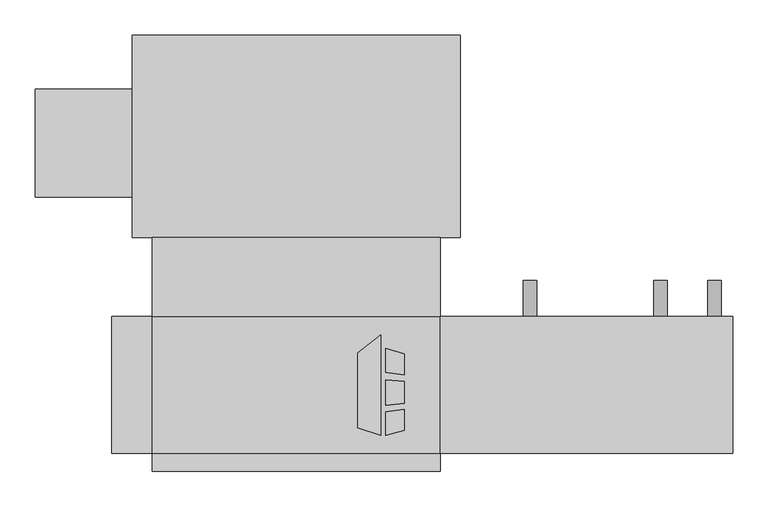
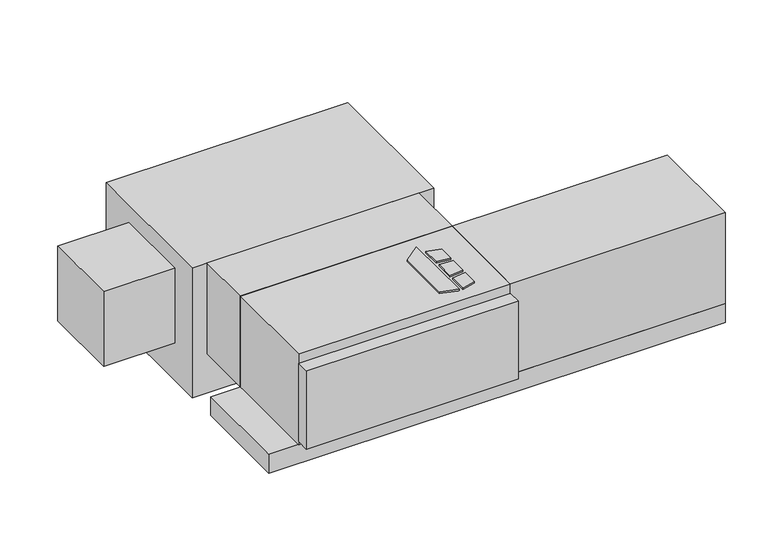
"""IFC4 building model written with IfcOpenShell, lengths in millimetres: proxy geometry, Concealed_Horizontal_Fan_Coil_Unit_With_Plenum_-_CPF_-_IEC_-_2-Pipe_RH : Size 02 - 115v/60Hz/1Ph - 4/1 Coil."""

from ifc_helpers import new_model, si_unit, point, frame, frame_2d, origin, origin_with_axes, place, context, project, spatial, polyline, circle_curve, trimmed, segment, composite_curve, outline, extrude, source, transform, mapped, element, save


def mechanical_equipment_11e3d364(model_context):
    return source(origin(), model_context, "Body", "SweptSolid", [
        extrude(outline(polyline([(239.4019761, -193.0453476), (271.9602728, -167.6080184), (271.9602728, -309.5625), (239.4019761, -299.3429201), (239.4019761, -193.0453476)])), origin_with_axes(), (0.0, 0.0, 1.0), 3.175),
        extrude(outline(polyline([(278.7186058, -220.917352), (278.7186058, -186.4374379), (304.8, -194.6240115), (304.8, -224.1197446), (278.7186058, -220.917352)])), origin_with_axes(), (0.0, 0.0, 1.0), 3.175),
        extrude(outline(polyline([(304.8, -302.5740115), (278.7186058, -309.5625), (278.7186058, -276.3411996), (304.8, -272.7993564), (304.8, -302.5740115)])), origin_with_axes(), (0.0, 0.0, 1.0), 3.175),
        extrude(outline(polyline([(304.8, -233.2013277), (304.8, -264.451483), (278.7186058, -267.192748), (278.7186058, -231.3350378), (304.8, -233.2013277)])), origin_with_axes(), (0.0, 0.0, 1.0), 3.175),
        extrude(outline(polyline([(-50.8, -30.1625), (355.6, -30.1625), (355.6, -141.2875), (-50.8, -141.2875), (-50.8, -30.1625)])), frame((0.0, 0.0, -184.15), z_axis=(0.0, 0.0, 1.0), x_axis=(1.0, 0.0, 0.0)), (0.0, 0.0, 1.0), 184.15),
        extrude(outline(composite_curve([segment(trimmed(circle_curve(frame_2d((-158.75, 666.75)), 9.525), [point((-158.75, 676.275))], [point((-158.75, 657.225))], False, "CARTESIAN"), True, "CONTINUOUS"), segment(trimmed(circle_curve(frame_2d((-158.75, 666.75)), 9.525), [point((-158.75, 657.225))], [point((-158.75, 676.275))], False, "CARTESIAN"), True, "CONTINUOUS")], self_intersect=False)), frame((0.0, -141.2875, 0.0), z_axis=(0.0, 1.0, 0.0), x_axis=(0.0, 0.0, 1.0)), (0.0, 0.0, 1.0), 50.8),
        extrude(outline(composite_curve([segment(trimmed(circle_curve(frame_2d((-158.75, 482.6)), 9.525), [point((-158.75, 492.125))], [point((-158.75, 473.075))], False, "CARTESIAN"), True, "CONTINUOUS"), segment(trimmed(circle_curve(frame_2d((-158.75, 482.6)), 9.525), [point((-158.75, 473.075))], [point((-158.75, 492.125))], False, "CARTESIAN"), True, "CONTINUOUS")], self_intersect=False)), frame((0.0, -141.2875, 0.0), z_axis=(0.0, 1.0, 0.0), x_axis=(0.0, 0.0, 1.0)), (0.0, 0.0, 1.0), 50.8),
        extrude(outline(polyline([(768.35, -141.2875), (768.35, -334.9625), (355.6, -334.9625), (355.6, -141.2875), (768.35, -141.2875)])), frame((0.0, 0.0, -184.15), z_axis=(0.0, 0.0, 1.0), x_axis=(1.0, 0.0, 0.0)), (0.0, 0.0, 1.0), 184.15),
        extrude(outline(composite_curve([segment(trimmed(circle_curve(frame_2d((-209.55, 742.95)), 9.525), [point((-209.55, 733.425))], [point((-209.55, 752.475))], False, "CARTESIAN"), True, "CONTINUOUS"), segment(trimmed(circle_curve(frame_2d((-209.55, 742.95)), 9.525), [point((-209.55, 752.475))], [point((-209.55, 733.425))], False, "CARTESIAN"), True, "CONTINUOUS")], self_intersect=False)), frame((0.0, -141.2875, 0.0), z_axis=(0.0, 1.0, 0.0), x_axis=(0.0, 0.0, 1.0)), (0.0, 0.0, 1.0), 50.8),
        extrude(outline(polyline([(355.6, -334.9625), (355.6, -360.3625), (-50.8, -360.3625), (-50.8, -334.9625), (355.6, -334.9625)])), frame((0.0, 0.0, -177.8), z_axis=(0.0, 0.0, 1.0), x_axis=(1.0, 0.0, 0.0)), (0.0, 0.0, 1.0), 158.75),
        extrude(outline(polyline([(355.6, -334.9625), (-50.8, -334.9625), (-50.8, -141.2875), (355.6, -141.2875), (355.6, -334.9625)])), frame((0.0, 0.0, -184.15), z_axis=(0.0, 0.0, 1.0), x_axis=(1.0, 0.0, 0.0)), (0.0, 0.0, 1.0), 184.15),
        extrude(outline(polyline([(768.35, -141.2875), (768.35, -334.9625), (-107.95, -334.9625), (-107.95, -141.2875), (768.35, -141.2875)])), frame((0.0, 0.0, -222.25), z_axis=(0.0, 0.0, 1.0), x_axis=(1.0, 0.0, 0.0)), (0.0, 0.0, 1.0), 38.1),
        extrude(outline(polyline([(-215.9, 26.9875), (-215.9, 179.3875), (-79.375, 179.3875), (-79.375, 26.9875), (-215.9, 26.9875)])), frame((0.0, 0.0, -187.325), z_axis=(0.0, 0.0, 1.0), x_axis=(1.0, 0.0, 0.0)), (0.0, 0.0, 1.0), 152.4),
        extrude(outline(polyline([(-79.375, 255.5875), (384.175, 255.5875), (384.175, -30.1625), (-79.375, -30.1625), (-79.375, 255.5875)])), frame((0.0, 0.0, -263.525), z_axis=(0.0, 0.0, 1.0), x_axis=(1.0, 0.0, 0.0)), (0.0, 0.0, 1.0), 263.525),
    ])


if __name__ == "__main__":
    model = new_model("IFC4")
    model_context = context("Model", 3, world=origin())
    ifc_project = project(units=[si_unit("LENGTHUNIT", "METRE", prefix="MILLI")], contexts=[model_context])
    site = spatial("IfcSite", under=ifc_project)
    building = spatial("IfcBuilding", under=site)
    placement = place(None, origin())
    mechanical_equipment_shape = mechanical_equipment_11e3d364(model_context)
    element("IfcBuildingElementProxy", 1, Name="Concealed_Horizontal_Fan_Coil_Unit_With_Plenum_-_CPF_-_IEC_-_2-Pipe_RH : Size 02 - 115v/60Hz/1Ph - 4/1 Coil", ObjectType="Concealed_Horizontal_Fan_Coil_Unit_With_Plenum_-_CPF_-_IEC_-_2-Pipe_RH : Size 02 - 115v/60Hz/1Ph - 4/1 Coil", at=placement, inside=building, context=model_context, shape_type="MappedRepresentation", body=[
        mapped(mechanical_equipment_shape, transform((0.0, 0.0, 0.0), x_axis=(1.0, 0.0, 0.0), y_axis=(0.0, 1.0, 0.0), z_axis=(0.0, 0.0, 1.0))),
    ])
    save(model, "model.ifc")
